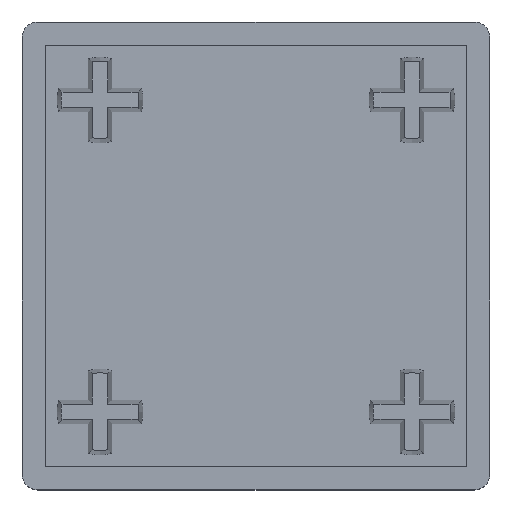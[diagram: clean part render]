
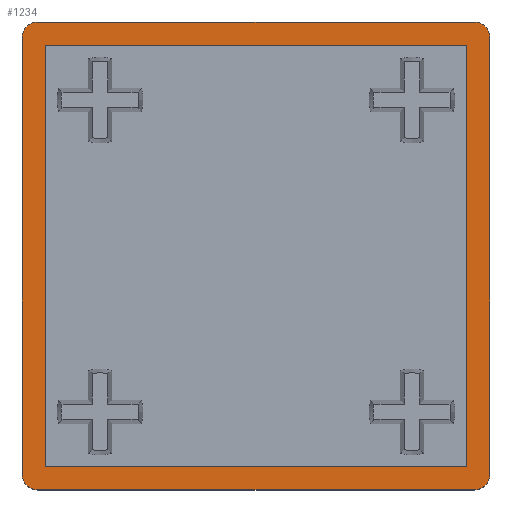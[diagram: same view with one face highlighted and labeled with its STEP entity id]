
A CAD part, top view. The second image highlights one B-rep face of the part: STEP entity #1234.
In plain terms, the highlighted planar face has unit normal (0, 0, 1).
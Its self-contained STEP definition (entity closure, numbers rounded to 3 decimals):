
#20 = EDGE_LOOP ( 'NONE', ( #1309, #583, #827, #1021, #1595, #1298, #1929, #1350 ) ) ;
#40 = CARTESIAN_POINT ( 'NONE',  ( 14., 14., 5. ) ) ;
#51 = EDGE_CURVE ( 'NONE', #874, #2213, #1786, .T. ) ;
#73 = EDGE_CURVE ( 'NONE', #1046, #874, #77, .T. ) ;
#76 = DIRECTION ( 'NONE',  ( 1., 0., 0. ) ) ;
#77 = LINE ( 'NONE', #1362, #931 ) ;
#98 = VECTOR ( 'NONE', #322, 1000. ) ;
#126 = DIRECTION ( 'NONE',  ( 0., -1., 0. ) ) ;
#140 = LINE ( 'NONE', #341, #2261 ) ;
#157 = EDGE_CURVE ( 'NONE', #1758, #1184, #502, .T. ) ;
#177 = AXIS2_PLACEMENT_3D ( 'NONE', #2188, #478, #2027 ) ;
#182 = EDGE_CURVE ( 'NONE', #535, #205, #1465, .T. ) ;
#193 = DIRECTION ( 'NONE',  ( 1., 0., 0. ) ) ;
#205 = VERTEX_POINT ( 'NONE', #1416 ) ;
#213 = AXIS2_PLACEMENT_3D ( 'NONE', #1106, #1669, #193 ) ;
#276 = DIRECTION ( 'NONE',  ( 0., 0., 1. ) ) ;
#322 = DIRECTION ( 'NONE',  ( 0., 1., 0. ) ) ;
#341 = CARTESIAN_POINT ( 'NONE',  ( -15., 15., 5. ) ) ;
#357 = CARTESIAN_POINT ( 'NONE',  ( -13.5, -13.5, 5. ) ) ;
#409 = CARTESIAN_POINT ( 'NONE',  ( 0., 0., 5. ) ) ;
#412 = VERTEX_POINT ( 'NONE', #2294 ) ;
#440 = EDGE_CURVE ( 'NONE', #412, #653, #1361, .T. ) ;
#449 = CARTESIAN_POINT ( 'NONE',  ( 15., 14., 5. ) ) ;
#457 = AXIS2_PLACEMENT_3D ( 'NONE', #40, #276, #1372 ) ;
#478 = DIRECTION ( 'NONE',  ( 0., 0., 1. ) ) ;
#487 = DIRECTION ( 'NONE',  ( 0., -1., 0. ) ) ;
#502 = LINE ( 'NONE', #1454, #845 ) ;
#525 = CARTESIAN_POINT ( 'NONE',  ( -13.5, 13.5, 5. ) ) ;
#534 = CIRCLE ( 'NONE', #177, 1. ) ;
#535 = VERTEX_POINT ( 'NONE', #1948 ) ;
#583 = ORIENTED_EDGE ( 'NONE', *, *, #2357, .T. ) ;
#585 = VERTEX_POINT ( 'NONE', #865 ) ;
#609 = CIRCLE ( 'NONE', #213, 1. ) ;
#653 = VERTEX_POINT ( 'NONE', #1224 ) ;
#665 = CARTESIAN_POINT ( 'NONE',  ( -15., 14., 5. ) ) ;
#680 = VECTOR ( 'NONE', #76, 1000. ) ;
#733 = EDGE_LOOP ( 'NONE', ( #824, #1232, #915, #1577 ) ) ;
#801 = DIRECTION ( 'NONE',  ( 0., 0., 1. ) ) ;
#824 = ORIENTED_EDGE ( 'NONE', *, *, #2392, .F. ) ;
#827 = ORIENTED_EDGE ( 'NONE', *, *, #73, .T. ) ;
#845 = VECTOR ( 'NONE', #487, 1000. ) ;
#854 = EDGE_CURVE ( 'NONE', #2213, #585, #1562, .T. ) ;
#865 = CARTESIAN_POINT ( 'NONE',  ( -14., 15., 5. ) ) ;
#874 = VERTEX_POINT ( 'NONE', #449 ) ;
#915 = ORIENTED_EDGE ( 'NONE', *, *, #1156, .F. ) ;
#926 = DIRECTION ( 'NONE',  ( 0., 0., 1. ) ) ;
#931 = VECTOR ( 'NONE', #1179, 1000. ) ;
#955 = VERTEX_POINT ( 'NONE', #665 ) ;
#968 = AXIS2_PLACEMENT_3D ( 'NONE', #1136, #926, #1284 ) ;
#1021 = ORIENTED_EDGE ( 'NONE', *, *, #51, .T. ) ;
#1034 = CARTESIAN_POINT ( 'NONE',  ( 15., -14., 5. ) ) ;
#1046 = VERTEX_POINT ( 'NONE', #1034 ) ;
#1106 = CARTESIAN_POINT ( 'NONE',  ( -14., 14., 5. ) ) ;
#1108 = DIRECTION ( 'NONE',  ( 1., 0., 0. ) ) ;
#1122 = CARTESIAN_POINT ( 'NONE',  ( -13.5, -13.5, 5. ) ) ;
#1128 = EDGE_CURVE ( 'NONE', #2350, #412, #1352, .T. ) ;
#1136 = CARTESIAN_POINT ( 'NONE',  ( -14., -14., 5. ) ) ;
#1156 = EDGE_CURVE ( 'NONE', #1184, #535, #2230, .T. ) ;
#1179 = DIRECTION ( 'NONE',  ( 0., 1., 0. ) ) ;
#1184 = VERTEX_POINT ( 'NONE', #1122 ) ;
#1224 = CARTESIAN_POINT ( 'NONE',  ( 14., -15., 5. ) ) ;
#1227 = CARTESIAN_POINT ( 'NONE',  ( -15., -14., 5. ) ) ;
#1232 = ORIENTED_EDGE ( 'NONE', *, *, #182, .F. ) ;
#1234 = ADVANCED_FACE ( 'NONE', ( #1889, #2089 ), #1928, .T. ) ;
#1284 = DIRECTION ( 'NONE',  ( 1., 0., 0. ) ) ;
#1298 = ORIENTED_EDGE ( 'NONE', *, *, #2075, .T. ) ;
#1309 = ORIENTED_EDGE ( 'NONE', *, *, #440, .T. ) ;
#1350 = ORIENTED_EDGE ( 'NONE', *, *, #1128, .T. ) ;
#1352 = CIRCLE ( 'NONE', #968, 1. ) ;
#1361 = LINE ( 'NONE', #1537, #680 ) ;
#1362 = CARTESIAN_POINT ( 'NONE',  ( 15., -15., 5. ) ) ;
#1372 = DIRECTION ( 'NONE',  ( 1., 0., 0. ) ) ;
#1416 = CARTESIAN_POINT ( 'NONE',  ( 13.5, 13.5, 5. ) ) ;
#1454 = CARTESIAN_POINT ( 'NONE',  ( -13.5, 13.5, 5. ) ) ;
#1465 = LINE ( 'NONE', #1610, #98 ) ;
#1537 = CARTESIAN_POINT ( 'NONE',  ( -15., -15., 5. ) ) ;
#1562 = LINE ( 'NONE', #2282, #1663 ) ;
#1577 = ORIENTED_EDGE ( 'NONE', *, *, #157, .F. ) ;
#1582 = VECTOR ( 'NONE', #1108, 1000. ) ;
#1595 = ORIENTED_EDGE ( 'NONE', *, *, #854, .T. ) ;
#1610 = CARTESIAN_POINT ( 'NONE',  ( 13.5, -13.5, 5. ) ) ;
#1641 = LINE ( 'NONE', #2369, #2377 ) ;
#1663 = VECTOR ( 'NONE', #2110, 1000. ) ;
#1669 = DIRECTION ( 'NONE',  ( 0., 0., 1. ) ) ;
#1706 = DIRECTION ( 'NONE',  ( 1., 0., 0. ) ) ;
#1758 = VERTEX_POINT ( 'NONE', #525 ) ;
#1786 = CIRCLE ( 'NONE', #457, 1. ) ;
#1789 = DIRECTION ( 'NONE',  ( -1., 0., 0. ) ) ;
#1889 = FACE_BOUND ( 'NONE', #733, .T. ) ;
#1928 = PLANE ( 'NONE',  #2297 ) ;
#1929 = ORIENTED_EDGE ( 'NONE', *, *, #2360, .T. ) ;
#1948 = CARTESIAN_POINT ( 'NONE',  ( 13.5, -13.5, 5. ) ) ;
#2027 = DIRECTION ( 'NONE',  ( 1., 0., 0. ) ) ;
#2075 = EDGE_CURVE ( 'NONE', #585, #955, #609, .T. ) ;
#2089 = FACE_OUTER_BOUND ( 'NONE', #20, .T. ) ;
#2110 = DIRECTION ( 'NONE',  ( -1., 0., 0. ) ) ;
#2188 = CARTESIAN_POINT ( 'NONE',  ( 14., -14., 5. ) ) ;
#2213 = VERTEX_POINT ( 'NONE', #2331 ) ;
#2230 = LINE ( 'NONE', #357, #1582 ) ;
#2261 = VECTOR ( 'NONE', #126, 1000. ) ;
#2282 = CARTESIAN_POINT ( 'NONE',  ( 15., 15., 5. ) ) ;
#2294 = CARTESIAN_POINT ( 'NONE',  ( -14., -15., 5. ) ) ;
#2297 = AXIS2_PLACEMENT_3D ( 'NONE', #409, #801, #1706 ) ;
#2331 = CARTESIAN_POINT ( 'NONE',  ( 14., 15., 5. ) ) ;
#2350 = VERTEX_POINT ( 'NONE', #1227 ) ;
#2357 = EDGE_CURVE ( 'NONE', #653, #1046, #534, .T. ) ;
#2360 = EDGE_CURVE ( 'NONE', #955, #2350, #140, .T. ) ;
#2369 = CARTESIAN_POINT ( 'NONE',  ( 13.5, 13.5, 5. ) ) ;
#2377 = VECTOR ( 'NONE', #1789, 1000. ) ;
#2392 = EDGE_CURVE ( 'NONE', #205, #1758, #1641, .T. ) ;
